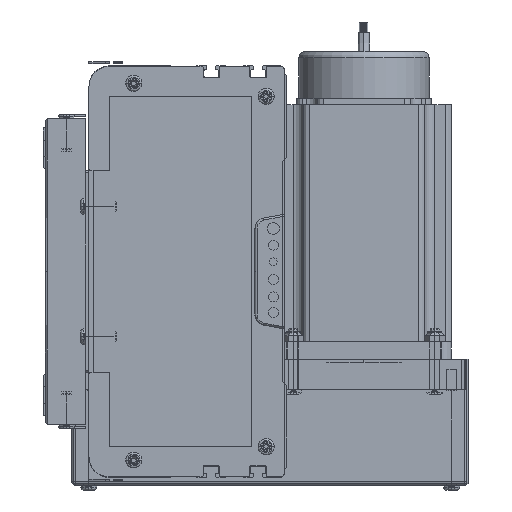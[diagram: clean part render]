
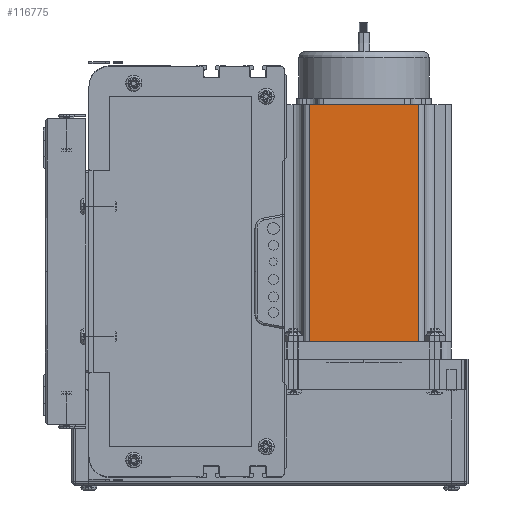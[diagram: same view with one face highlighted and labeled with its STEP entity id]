
A CAD part, left-side view. The second image highlights one B-rep face of the part: STEP entity #116775.
In plain terms, the highlighted planar face has unit normal (-1, 0, 0) as drawn and (0, -1, 0) by its records, which use the part's own axes.
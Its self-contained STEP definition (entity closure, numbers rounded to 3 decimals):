
#72812 = VECTOR ( 'NONE', #72836, 1000. ) ;
#72834 = LINE ( 'NONE', #72837, #72812 ) ;
#72836 = DIRECTION ( 'NONE',  ( 1., 0., 0. ) ) ;
#72837 = CARTESIAN_POINT ( 'NONE',  ( 0., 0., 116.5 ) ) ;
#72840 = CARTESIAN_POINT ( 'NONE',  ( 69.74, 0., 116.5 ) ) ;
#72957 = PLANE ( 'NONE',  #73021 ) ;
#72967 = CARTESIAN_POINT ( 'NONE',  ( 0., 0., 116.5 ) ) ;
#72971 = CARTESIAN_POINT ( 'NONE',  ( 69.74, 0., 0. ) ) ;
#72990 = CARTESIAN_POINT ( 'NONE',  ( 16.16, 0., 0. ) ) ;
#73015 = DIRECTION ( 'NONE',  ( 0., 0., 1. ) ) ;
#73016 = DIRECTION ( 'NONE',  ( 0., 1., 0. ) ) ;
#73020 = FACE_OUTER_BOUND ( 'NONE', #116803, .T. ) ;
#73021 = AXIS2_PLACEMENT_3D ( 'NONE', #72967, #73016, #73015 ) ;
#73022 = CARTESIAN_POINT ( 'NONE',  ( 16.16, 0., 116.5 ) ) ;
#103177 = LINE ( 'NONE', #103651, #103207 ) ;
#103207 = VECTOR ( 'NONE', #103442, 1000. ) ;
#103442 = DIRECTION ( 'NONE',  ( 0., 0., -1. ) ) ;
#103651 = CARTESIAN_POINT ( 'NONE',  ( 16.16, 0., 116.5 ) ) ;
#116592 = VERTEX_POINT ( 'NONE', #72840 ) ;
#116594 = ORIENTED_EDGE ( 'NONE', *, *, #116980, .T. ) ;
#116596 = EDGE_CURVE ( 'NONE', #116782, #116592, #72834, .T. ) ;
#116755 = VERTEX_POINT ( 'NONE', #72990 ) ;
#116756 = VERTEX_POINT ( 'NONE', #72971 ) ;
#116775 = ADVANCED_FACE ( 'NONE', ( #73020 ), #72957, .F. ) ;
#116778 = ORIENTED_EDGE ( 'NONE', *, *, #116596, .F. ) ;
#116782 = VERTEX_POINT ( 'NONE', #73022 ) ;
#116784 = ORIENTED_EDGE ( 'NONE', *, *, #116927, .T. ) ;
#116803 = EDGE_LOOP ( 'NONE', ( #116784, #116594, #116778, #116883 ) ) ;
#116883 = ORIENTED_EDGE ( 'NONE', *, *, #116889, .T. ) ;
#116889 = EDGE_CURVE ( 'NONE', #116782, #116755, #103177, .T. ) ;
#116927 = EDGE_CURVE ( 'NONE', #116755, #116756, #162847, .T. ) ;
#116980 = EDGE_CURVE ( 'NONE', #116756, #116592, #163152, .T. ) ;
#162845 = CARTESIAN_POINT ( 'NONE',  ( 0., 0., 0. ) ) ;
#162847 = LINE ( 'NONE', #162845, #163005 ) ;
#163004 = DIRECTION ( 'NONE',  ( 1., 0., 0. ) ) ;
#163005 = VECTOR ( 'NONE', #163004, 1000. ) ;
#163152 = LINE ( 'NONE', #163293, #163291 ) ;
#163288 = DIRECTION ( 'NONE',  ( 0., 0., 1. ) ) ;
#163291 = VECTOR ( 'NONE', #163288, 1000. ) ;
#163293 = CARTESIAN_POINT ( 'NONE',  ( 69.74, 0., 116.5 ) ) ;
